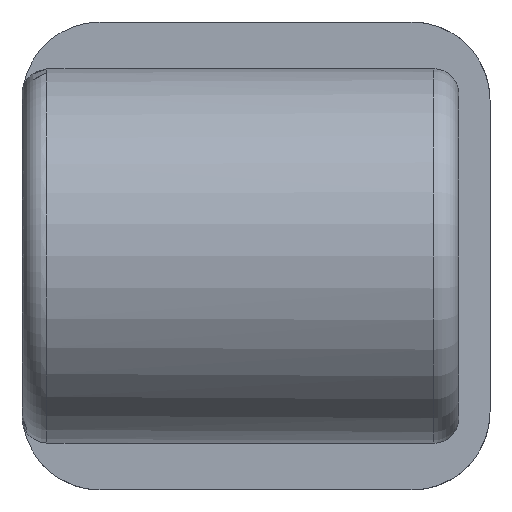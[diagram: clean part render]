
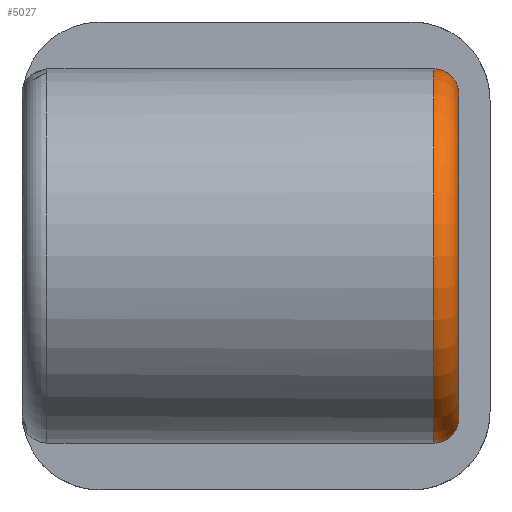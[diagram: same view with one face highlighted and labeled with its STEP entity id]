
A CAD part, left-side view. The second image highlights one B-rep face of the part: STEP entity #5027.
In plain terms, the highlighted toroidal (fillet/blend) face has major radius 5.2 mm and minor radius 0.8 mm.
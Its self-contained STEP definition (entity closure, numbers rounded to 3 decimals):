
#1114 = CYLINDRICAL_SURFACE('',#1115,6.);
#1115 = AXIS2_PLACEMENT_3D('',#1116,#1117,#1118);
#1116 = CARTESIAN_POINT('',(0.,7.,0.));
#1117 = DIRECTION('',(0.,-1.,0.));
#1118 = DIRECTION('',(1.,0.,0.));
#2846 = VERTEX_POINT('',#2847);
#2847 = CARTESIAN_POINT('',(6.,-6.2,0.));
#2868 = EDGE_CURVE('',#2846,#2846,#2869,.T.);
#2869 = SURFACE_CURVE('',#2870,(#2875,#2882),.PCURVE_S1.);
#2870 = CIRCLE('',#2871,6.);
#2871 = AXIS2_PLACEMENT_3D('',#2872,#2873,#2874);
#2872 = CARTESIAN_POINT('',(0.,-6.2,0.));
#2873 = DIRECTION('',(0.,-1.,0.));
#2874 = DIRECTION('',(1.,0.,0.));
#2875 = PCURVE('',#1114,#2876);
#2876 = DEFINITIONAL_REPRESENTATION('',(#2877),#2881);
#2877 = LINE('',#2878,#2879);
#2878 = CARTESIAN_POINT('',(0.,13.2));
#2879 = VECTOR('',#2880,1.);
#2880 = DIRECTION('',(1.,0.));
#2881 = ( GEOMETRIC_REPRESENTATION_CONTEXT(2) 
PARAMETRIC_REPRESENTATION_CONTEXT() REPRESENTATION_CONTEXT('2D SPACE',''
  ) );
#2882 = PCURVE('',#2883,#2888);
#2883 = TOROIDAL_SURFACE('',#2884,5.2,0.8);
#2884 = AXIS2_PLACEMENT_3D('',#2885,#2886,#2887);
#2885 = CARTESIAN_POINT('',(0.,-6.2,0.));
#2886 = DIRECTION('',(0.,-1.,0.));
#2887 = DIRECTION('',(1.,0.,0.));
#2888 = DEFINITIONAL_REPRESENTATION('',(#2889),#2893);
#2889 = LINE('',#2890,#2891);
#2890 = CARTESIAN_POINT('',(0.,0.));
#2891 = VECTOR('',#2892,1.);
#2892 = DIRECTION('',(1.,0.));
#2893 = ( GEOMETRIC_REPRESENTATION_CONTEXT(2) 
PARAMETRIC_REPRESENTATION_CONTEXT() REPRESENTATION_CONTEXT('2D SPACE',''
  ) );
#3031 = PLANE('',#3032);
#3032 = AXIS2_PLACEMENT_3D('',#3033,#3034,#3035);
#3033 = CARTESIAN_POINT('',(0.,-7.,0.));
#3034 = DIRECTION('',(0.,-1.,0.));
#3035 = DIRECTION('',(1.,0.,0.));
#5027 = ADVANCED_FACE('',(#5028),#2883,.T.);
#5028 = FACE_BOUND('',#5029,.T.);
#5029 = EDGE_LOOP('',(#5030,#5052,#5053,#5054));
#5030 = ORIENTED_EDGE('',*,*,#5031,.F.);
#5031 = EDGE_CURVE('',#2846,#5032,#5034,.T.);
#5032 = VERTEX_POINT('',#5033);
#5033 = CARTESIAN_POINT('',(5.2,-7.,0.));
#5034 = SEAM_CURVE('',#5035,(#5040,#5046),.PCURVE_S1.);
#5035 = CIRCLE('',#5036,0.8);
#5036 = AXIS2_PLACEMENT_3D('',#5037,#5038,#5039);
#5037 = CARTESIAN_POINT('',(5.2,-6.2,0.));
#5038 = DIRECTION('',(0.,0.,-1.));
#5039 = DIRECTION('',(1.,0.,0.));
#5040 = PCURVE('',#2883,#5041);
#5041 = DEFINITIONAL_REPRESENTATION('',(#5042),#5045);
#5042 = B_SPLINE_CURVE_WITH_KNOTS('',1,(#5043,#5044),.UNSPECIFIED.,.F.,
  .F.,(2,2),(0.,1.571),.PIECEWISE_BEZIER_KNOTS.);
#5043 = CARTESIAN_POINT('',(0.,0.));
#5044 = CARTESIAN_POINT('',(0.,1.571));
#5045 = ( GEOMETRIC_REPRESENTATION_CONTEXT(2) 
PARAMETRIC_REPRESENTATION_CONTEXT() REPRESENTATION_CONTEXT('2D SPACE',''
  ) );
#5046 = PCURVE('',#2883,#5047);
#5047 = DEFINITIONAL_REPRESENTATION('',(#5048),#5051);
#5048 = B_SPLINE_CURVE_WITH_KNOTS('',1,(#5049,#5050),.UNSPECIFIED.,.F.,
  .F.,(2,2),(0.,1.571),.PIECEWISE_BEZIER_KNOTS.);
#5049 = CARTESIAN_POINT('',(6.283,0.));
#5050 = CARTESIAN_POINT('',(6.283,1.571));
#5051 = ( GEOMETRIC_REPRESENTATION_CONTEXT(2) 
PARAMETRIC_REPRESENTATION_CONTEXT() REPRESENTATION_CONTEXT('2D SPACE',''
  ) );
#5052 = ORIENTED_EDGE('',*,*,#2868,.T.);
#5053 = ORIENTED_EDGE('',*,*,#5031,.T.);
#5054 = ORIENTED_EDGE('',*,*,#5055,.F.);
#5055 = EDGE_CURVE('',#5032,#5032,#5056,.T.);
#5056 = SURFACE_CURVE('',#5057,(#5062,#5069),.PCURVE_S1.);
#5057 = CIRCLE('',#5058,5.2);
#5058 = AXIS2_PLACEMENT_3D('',#5059,#5060,#5061);
#5059 = CARTESIAN_POINT('',(0.,-7.,0.));
#5060 = DIRECTION('',(0.,-1.,0.));
#5061 = DIRECTION('',(1.,0.,0.));
#5062 = PCURVE('',#2883,#5063);
#5063 = DEFINITIONAL_REPRESENTATION('',(#5064),#5068);
#5064 = LINE('',#5065,#5066);
#5065 = CARTESIAN_POINT('',(0.,1.571));
#5066 = VECTOR('',#5067,1.);
#5067 = DIRECTION('',(1.,0.));
#5068 = ( GEOMETRIC_REPRESENTATION_CONTEXT(2) 
PARAMETRIC_REPRESENTATION_CONTEXT() REPRESENTATION_CONTEXT('2D SPACE',''
  ) );
#5069 = PCURVE('',#3031,#5070);
#5070 = DEFINITIONAL_REPRESENTATION('',(#5071),#5075);
#5071 = CIRCLE('',#5072,5.2);
#5072 = AXIS2_PLACEMENT_2D('',#5073,#5074);
#5073 = CARTESIAN_POINT('',(0.,0.));
#5074 = DIRECTION('',(1.,0.));
#5075 = ( GEOMETRIC_REPRESENTATION_CONTEXT(2) 
PARAMETRIC_REPRESENTATION_CONTEXT() REPRESENTATION_CONTEXT('2D SPACE',''
  ) );
